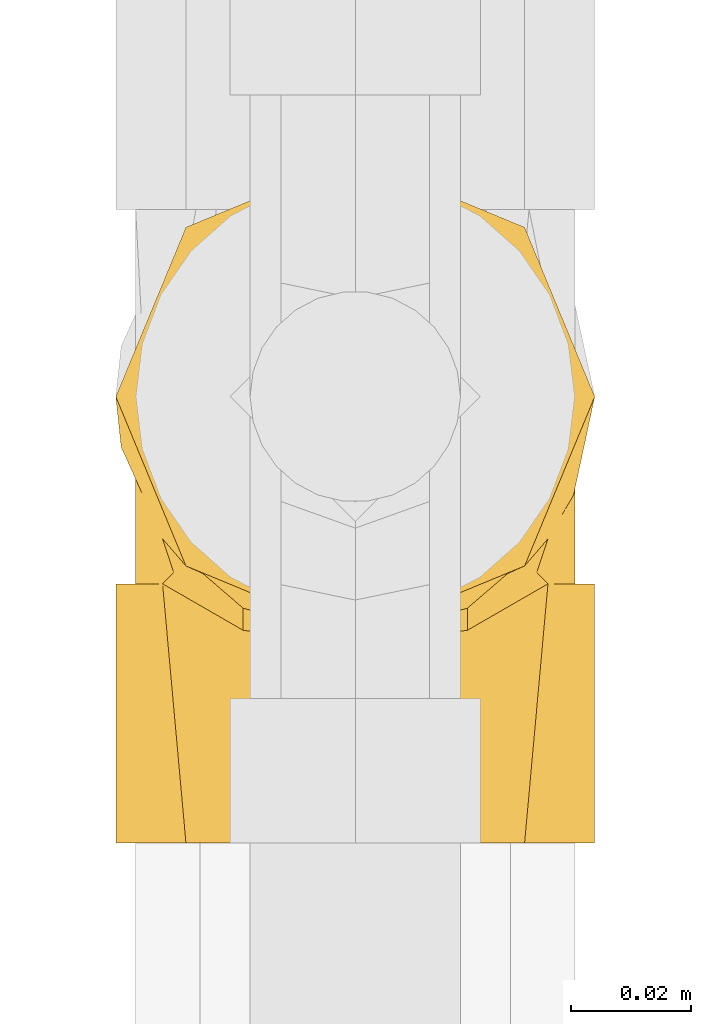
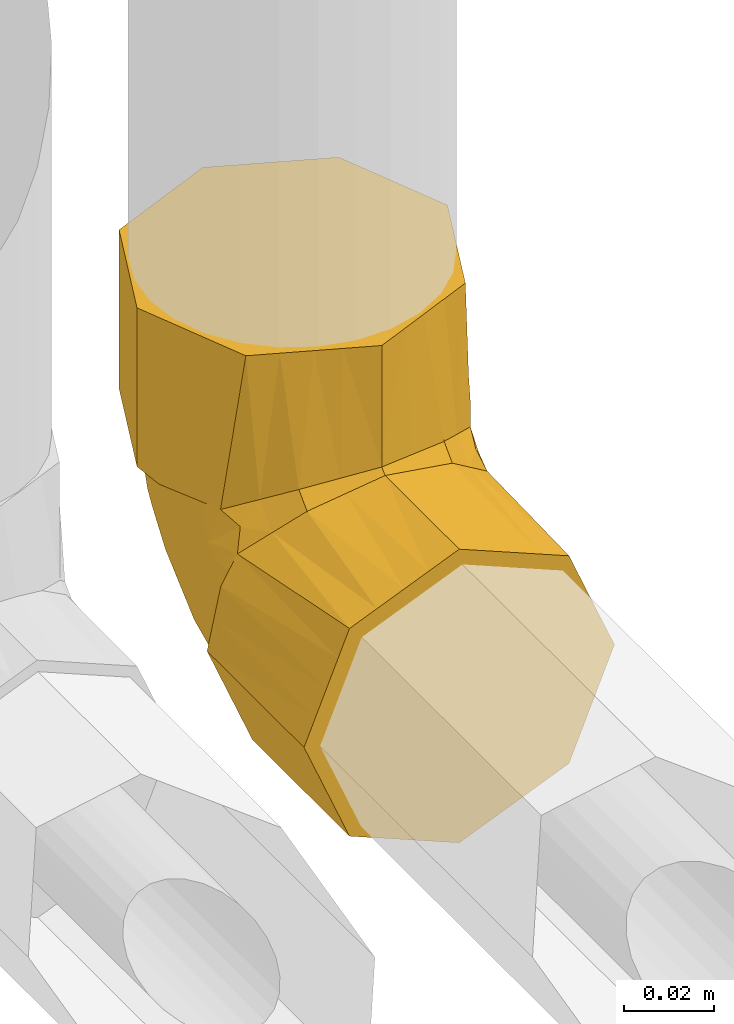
# One storey, part 245 of 652: 1 covering.
"""IFC2X3 building model written with IfcOpenShell, lengths in millimetres."""

from ifc_helpers import new_model, entity, si_unit, converted_unit, direction, frame, origin, place, context, subcontext, project, spatial, faceted_brep, material, type_object, element, save


model = new_model("IFC2X3")

# Units and contexts
model_context = context("Model", 3, precision=0.01, world=frame((0.0, 0.0, 308426.39999999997)), true_north=direction((6.123233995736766e-17, 1.0)))
plan_context = context("Plan", 3, precision=0.01, world=frame((0.0, 0.0, 308426.39999999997)), true_north=direction((6.123233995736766e-17, 1.0)))
body_context = subcontext(model_context, "Body", "Model", "MODEL_VIEW")
ifc_project = project(units=[si_unit("LENGTHUNIT", "METRE", prefix="MILLI"), si_unit("AREAUNIT", "SQUARE_METRE"), si_unit("VOLUMEUNIT", "CUBIC_METRE"), converted_unit("PLANEANGLEUNIT", "DEGREE", entity("IfcPlaneAngleMeasure", 0.017453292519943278), si_unit("PLANEANGLEUNIT", "RADIAN"), dimensions=[0, 0, 0, 0, 0, 0, 0])], contexts=[model_context, plan_context])

# Site, building, storey
site_placement = place(None, origin())
site = spatial("IfcSite", under=ifc_project, at=site_placement, Name="Default", CompositionType="ELEMENT")
building_placement = place(site_placement, origin())
building = spatial("IfcBuilding", under=site, at=building_placement, CompositionType="ELEMENT")
storey_placement = place(building_placement, frame((0.0, 0.0, 1730.6999999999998)))
storey = spatial("IfcBuildingStorey", under=building, at=storey_placement, Name="EG_Produktion_FFB", CompositionType="ELEMENT", Elevation=1730.6999999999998)

# Covering
ifc_material = material(Name="Dämmung - Armaflex-Schlauch")
covering_type = type_object("IfcCoveringType", Name="Rohrdämmung außen:Armaflex-Schlauch", PredefinedType="INSULATION")
covering_placement = place(storey_placement, frame((77838.64672776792, 51563.94410396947, 2358.646727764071)))
element("IfcCovering", 1, at=covering_placement, inside=storey, type_object=covering_type, material=ifc_material, Name="Rohrdämmung außen:Armaflex-Schlauch", ObjectType="Rohrdämmung außen:Armaflex-Schlauch", PredefinedType="INSULATION", context=body_context, shape_type="Brep", body=[
    faceted_brep([(6.083537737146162, 43.00574999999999, 55.29344606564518), (5.617026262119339, 43.00574999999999, 51.30566939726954), (4.890772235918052, 43.00574999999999, 45.09759303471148), (8.3318644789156, 43.00574999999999, 37.46172977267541), (11.772956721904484, 43.00574999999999, 29.8258665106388), (14.99997398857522, 43.00574999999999, 22.66504057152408), (18.22699125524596, 43.00574999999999, 15.504214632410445), (29.790131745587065, 43.00574999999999, 11.253230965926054), (41.35327223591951, 43.00574999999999, 7.002247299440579), (48.56686113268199, 43.00574999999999, 10.651622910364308), (55.78045002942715, 43.00574999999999, 14.300998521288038), (62.99403892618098, 43.00574999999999, 17.950374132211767), (70.2076278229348, 43.00574999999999, 21.599749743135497), (72.58441730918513, 43.00574999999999, 28.940491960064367), (75.20009477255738, 43.00574999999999, 37.01904249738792), (77.81577223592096, 43.00574999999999, 45.09759303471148), (77.08951820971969, 43.00574999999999, 51.305669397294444), (76.62300673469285, 43.00574999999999, 55.29344606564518), (74.98470757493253, 43.00574999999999, 60.125242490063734), (73.34640841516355, 43.00574999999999, 64.9570389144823), (76.7834397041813, 43.00574999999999, 57.339633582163), (80.22047099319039, 43.00574999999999, 49.72222824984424), (81.11127223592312, 43.00574999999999, 41.35327223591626), (77.7993156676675, 43.00574999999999, 33.35750177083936), (75.28884793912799, 43.00574999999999, 27.29669653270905), (72.37763579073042, 43.00574999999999, 20.26840868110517), (69.46642364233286, 43.00574999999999, 13.240120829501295), (62.43813579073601, 43.00574999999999, 10.328908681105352), (55.40984793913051, 43.00574999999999, 7.417696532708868), (48.38156008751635, 43.00574999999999, 4.506484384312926), (41.35327223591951, 43.00574999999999, 1.5952722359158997), (33.357501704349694, 43.00574999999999, 4.907228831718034), (27.296696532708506, 43.00574999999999, 7.417696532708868), (20.268408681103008, 43.00574999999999, 10.328908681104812), (13.240120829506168, 43.00574999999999, 13.240120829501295), (10.3289086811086, 43.00574999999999, 20.26840868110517), (7.417696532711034, 43.00574999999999, 27.296696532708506), (4.907228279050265, 43.00574999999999, 33.35750303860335), (1.5952722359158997, 43.00574999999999, 41.35327223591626), (3.3544632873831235, 43.00574999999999, 49.52928377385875), (5.113654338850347, 43.00574999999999, 57.70529531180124), (9.36013605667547, 43.00574999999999, 64.9570389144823), (7.721836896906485, 43.00574999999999, 60.12524249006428), (69.46642364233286, 0.0, 69.46642364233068), (62.43813579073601, 0.0, 72.37763579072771), (55.40984793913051, 0.0, 75.28884793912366), (49.349042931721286, 0.0, 77.79931557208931), (41.35327223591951, 0.0, 81.11127223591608), (33.357503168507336, 0.0, 77.79931624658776), (27.296696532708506, 0.0, 75.28884793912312), (20.268408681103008, 0.0, 72.37763579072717), (13.240120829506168, 0.0, 69.46642364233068), (10.3289086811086, 0.0, 62.43813579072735), (7.417696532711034, 0.0, 55.40984793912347), (4.506484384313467, 0.0, 48.381560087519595), (1.5952722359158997, 0.0, 41.35327223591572), (4.506484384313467, 0.0, 34.32498438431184), (7.417696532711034, 0.0, 27.296696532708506), (10.3289086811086, 0.0, 20.26840868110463), (13.240120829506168, 0.0, 13.240120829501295), (20.268408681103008, 0.0, 10.328908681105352), (27.296696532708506, 0.0, 7.417696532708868), (34.32498438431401, 0.0, 4.506484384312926), (41.35327223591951, 0.0, 1.5952722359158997), (48.38156008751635, 0.0, 4.506484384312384), (55.40984793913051, 0.0, 7.417696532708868), (62.43813579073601, 0.0, 10.328908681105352), (69.46642364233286, 0.0, 13.240120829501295), (74.4873587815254, 0.0, 25.361730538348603), (77.7993155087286, 0.0, 33.35750138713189), (81.11127223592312, 0.0, 41.35327223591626), (78.20006008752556, 0.0, 48.381560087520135), (75.28884793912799, 0.0, 55.40984793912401), (72.37763579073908, 0.0, 62.43813579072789), (66.6493605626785, 39.14313917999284, 70.72483298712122), (41.35327223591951, 32.887345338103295, 81.11127223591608), (50.65279247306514, 34.0839368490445, 78.80194964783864), (59.952312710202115, 35.28052835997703, 76.49262705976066), (55.3025525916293, 34.68223260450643, 77.64728835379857), (16.057183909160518, 39.14313917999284, 70.72483298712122), (32.053751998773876, 34.0839368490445, 78.80194964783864), (22.754231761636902, 35.28052835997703, 76.49262705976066), (37.04480775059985, 33.441725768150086, 80.04136388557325), (1.5952722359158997, 74.08425000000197, 72.43177223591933), (4.907228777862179, 82.0800204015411, 72.43177223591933), (7.417696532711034, 88.14082570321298, 72.43177223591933), (10.3289086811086, 95.16911355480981, 72.43177223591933), (13.240120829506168, 102.19740140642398, 72.43177223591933), (20.268408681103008, 105.10861355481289, 72.43177223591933), (27.296696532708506, 108.01982570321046, 72.43177223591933), (33.357503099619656, 110.53029398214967, 72.43177223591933), (41.35327223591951, 113.84225000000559, 72.43177223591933), (49.34904239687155, 110.53029355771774, 72.43177223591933), (55.40984793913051, 108.01982570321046, 72.43177223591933), (62.43813579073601, 105.10861355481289, 72.43177223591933), (69.46642364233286, 102.19740140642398, 72.43177223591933), (72.37763579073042, 95.16911355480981, 72.43177223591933), (75.28884793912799, 88.14082570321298, 72.43177223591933), (78.20006008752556, 81.11253785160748, 72.43177223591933), (81.11127223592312, 74.08425000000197, 72.43177223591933), (79.3520811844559, 65.90823846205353, 72.43177223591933), (77.59289013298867, 57.73222692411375, 72.43177223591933), (73.34640841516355, 50.48048332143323, 72.43177223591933), (74.98470757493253, 55.31227974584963, 72.43177223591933), (76.62300673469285, 60.14407617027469, 72.43177223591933), (77.08951812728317, 64.13185213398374, 72.43177223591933), (77.45264518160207, 67.23589066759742, 72.43177223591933), (77.81577223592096, 70.33992920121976, 72.43177223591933), (74.48171748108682, 77.73827380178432, 72.43177223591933), (71.14766272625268, 85.13661840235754, 72.43177223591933), (67.81360797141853, 92.53496300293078, 72.43177223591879), (64.47955321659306, 99.93330760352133, 72.43177223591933), (58.69798297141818, 102.0587994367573, 72.43177223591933), (52.916412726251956, 104.18429126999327, 72.43177223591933), (41.35327223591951, 108.4352749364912, 72.43177223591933), (34.13968333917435, 104.78589932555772, 72.43177223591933), (26.926094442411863, 101.1365237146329, 72.43177223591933), (19.712505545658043, 97.48714810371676, 72.43177223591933), (12.498916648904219, 93.83777249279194, 72.43177223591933), (10.596880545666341, 87.9633116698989, 72.43177223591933), (8.694844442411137, 82.08885084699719, 72.43177223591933), (4.890772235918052, 70.33992920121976, 72.43177223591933), (5.253899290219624, 67.23589066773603, 72.43177223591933), (5.617026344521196, 64.1318521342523, 72.43177223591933), (6.083537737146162, 60.14407617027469, 72.43177223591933), (7.721836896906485, 55.31227974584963, 72.43177223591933), (9.36013605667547, 50.48048332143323, 72.43177223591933), (5.923104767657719, 58.097888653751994, 72.43177223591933), (2.486073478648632, 65.71529398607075, 72.43177223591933), (78.20006008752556, 81.11253785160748, 115.43752223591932), (75.28884793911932, 88.14082570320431, 115.43752223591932), (72.37763579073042, 95.16911355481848, 115.43752223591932), (69.46642364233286, 102.19740140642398, 115.43752223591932), (57.34481362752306, 107.21833667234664, 115.43752223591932), (49.349042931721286, 110.53029333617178, 115.43752223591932), (41.35327223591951, 113.84225000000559, 115.43752223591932), (34.32498438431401, 110.93103785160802, 115.43752223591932), (27.296696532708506, 108.01982570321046, 115.43752223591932), (20.268408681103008, 105.10861355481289, 115.43752223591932), (13.240120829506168, 102.19740140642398, 115.43752223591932), (10.3289086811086, 95.16911355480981, 115.43752223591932), (7.417696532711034, 88.14082570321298, 115.43752223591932), (4.506484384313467, 81.11253785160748, 115.43752223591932), (1.5952722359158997, 74.08425000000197, 115.43752223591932), (4.506484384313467, 67.05596214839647, 115.43752223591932), (7.417696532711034, 60.02767429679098, 115.43752223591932), (10.3289086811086, 52.99938644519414, 115.43752223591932), (13.240120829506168, 45.971098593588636, 115.43752223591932), (20.268408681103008, 43.05988644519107, 115.43752223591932), (27.296696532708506, 40.1486742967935, 115.43752223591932), (33.35750137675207, 37.63820673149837, 115.43752223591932), (41.35327223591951, 34.32625000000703, 115.43752223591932), (49.34904132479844, 37.638205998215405, 115.43752223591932), (55.409847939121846, 40.1486742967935, 115.43752223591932), (62.43813579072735, 43.05988644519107, 115.43752223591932), (69.46642364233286, 45.971098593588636, 115.43752223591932), (72.37763579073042, 52.99938644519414, 115.43752223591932), (75.28884793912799, 60.02767429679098, 115.43752223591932), (77.7993155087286, 66.08847915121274, 115.43752223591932), (81.11127223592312, 74.08425000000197, 115.43752223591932), (41.35327223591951, 34.32624999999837, 82.55017689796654), (50.65279247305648, 36.63557258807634, 81.3535853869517), (59.95231271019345, 38.94489517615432, 80.15699387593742), (49.97020104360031, 36.466066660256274, 81.44141605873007), (66.6493605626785, 44.71268924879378, 76.29438305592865), (16.057183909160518, 44.71268924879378, 76.29438305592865), (32.05375199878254, 36.63557258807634, 81.3535853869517), (22.754231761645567, 38.94489517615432, 80.15699387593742), (32.736343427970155, 36.46606666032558, 81.4414160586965), (37.04480783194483, 35.39615833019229, 81.99579647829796), (70.58570371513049, 87.24563107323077, 57.27953829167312), (70.84194655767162, 59.25537915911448, 29.196562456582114), (74.32849001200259, 64.7856822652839, 39.99677644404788), (77.81577223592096, 54.444618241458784, 51.665813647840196), (77.00211431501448, 57.53683977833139, 44.427643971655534), (76.88844933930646, 69.54060567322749, 55.10574679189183), (68.42603953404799, 78.6127307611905, 40.74800020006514), (65.42597622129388, 63.63300022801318, 24.86974949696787), (41.35327223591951, 91.69909945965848, 37.51558616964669), (49.423246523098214, 97.09379966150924, 46.80229075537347), (49.76955400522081, 80.92903244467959, 27.55975639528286), (41.35327223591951, 55.17908736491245, 14.630582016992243), (50.78343827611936, 61.71355754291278, 14.918451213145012), (62.18567496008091, 81.91063946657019, 36.22638004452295), (77.81577223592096, 68.51539346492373, 70.04816151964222), (77.81577223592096, 66.69085772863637, 67.66455080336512), (77.81577223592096, 63.04178625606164, 62.897329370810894), (77.81577223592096, 58.74320224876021, 57.281571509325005), (65.52092940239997, 92.2422534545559, 54.940238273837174), (59.20806438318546, 71.24210235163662, 24.562664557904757), (60.22410783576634, 57.40923450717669, 17.335133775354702), (58.19488232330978, 92.66510975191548, 45.83903622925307), (55.853767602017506, 84.60868936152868, 33.94124595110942), (41.35327223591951, 100.06718719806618, 54.97367920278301), (41.35327223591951, 100.62176107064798, 56.13067021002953), (41.35327223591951, 67.3524247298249, 22.258916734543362), (41.35327223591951, 73.31662804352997, 25.996342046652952), (41.35327223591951, 79.52576209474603, 29.88725145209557), (55.751720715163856, 100.49812847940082, 57.754577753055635), (73.79715375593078, 78.60346314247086, 53.084365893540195), (41.35327223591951, 58.16118902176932, 16.499294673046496), (77.81577223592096, 48.25776996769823, 48.11331321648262), (77.16648559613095, 48.611422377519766, 55.8898031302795), (75.95462844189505, 47.90470472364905, 61.14799943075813), (41.35327223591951, 33.63371593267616, 81.80380630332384), (76.0357200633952, 51.459156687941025, 63.97836606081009), (71.49570768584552, 44.908883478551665, 70.52863846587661), (75.95462822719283, 54.28952252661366, 67.53281820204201), (77.15152320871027, 59.518701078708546, 66.9208805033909), (5.540058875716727, 48.611422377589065, 55.88980313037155), (4.890772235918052, 48.257769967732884, 48.1133132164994), (11.210837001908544, 44.90888338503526, 70.52863882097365), (6.670824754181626, 51.45915593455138, 63.97836681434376), (6.7519160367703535, 47.90470469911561, 61.14799943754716), (4.890772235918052, 58.743202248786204, 57.281571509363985), (6.7519162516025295, 54.28952251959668, 67.53281822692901), (5.555021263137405, 59.51870107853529, 66.92088050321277), (4.890772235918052, 66.69085772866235, 67.66455080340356), (4.890772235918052, 54.444618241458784, 51.665813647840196), (4.890772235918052, 68.51539346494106, 70.04816151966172), (4.890772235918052, 63.041786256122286, 62.89732937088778), (7.90055709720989, 59.61186262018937, 37.54867793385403), (11.144292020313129, 58.14792793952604, 29.753616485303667), (6.907352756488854, 76.41301603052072, 58.23539538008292), (31.821832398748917, 83.37405497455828, 30.21968406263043), (16.763579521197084, 79.87091005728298, 38.43788537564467), (9.117077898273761, 74.44381850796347, 47.150672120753), (14.598856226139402, 86.90253298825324, 50.85120006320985), (5.892051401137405, 66.09863101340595, 50.71304963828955), (5.886693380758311, 55.98858201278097, 42.398132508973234), (15.338625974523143, 67.81026209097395, 29.782072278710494), (22.521459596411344, 86.6462536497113, 39.60413641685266), (31.617498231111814, 98.35278997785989, 49.78456672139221), (22.69544496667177, 96.79734628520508, 54.986101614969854), (9.61944594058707, 83.33506495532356, 58.13081411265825), (24.56861790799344, 64.80279365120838, 19.784818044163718), (21.067876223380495, 74.76137203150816, 29.107014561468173), (16.734184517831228, 55.99524376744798, 21.418901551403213), (33.08278710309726, 68.64794002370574, 18.405512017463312)], [[[0, 1, 2, 3, 4, 5, 6, 7, 8, 9, 10, 11, 12, 13, 14, 15, 16, 17, 18, 19, 20, 21, 22, 23, 24, 25, 26, 27, 28, 29, 30, 31, 32, 33, 34, 35, 36, 37, 38, 39, 40, 41, 42]], [[43, 44, 45, 46, 47, 48, 49, 50, 51, 52, 53, 54, 55, 56, 57, 58, 59, 60, 61, 62, 63, 64, 65, 66, 67, 68, 69, 70, 71, 72, 73]], [[44, 43, 74]], [[75, 47, 46]], [[76, 75, 46]], [[45, 77, 78, 76]], [[44, 74, 77]], [[72, 20, 73]], [[71, 21, 72]], [[43, 19, 74]], [[77, 45, 44]], [[72, 21, 20]], [[71, 22, 21]], [[45, 76, 46]], [[71, 70, 22]], [[73, 20, 19]], [[19, 43, 73]], [[23, 22, 70, 69, 68, 67, 26, 25, 24]], [[26, 67, 66, 65, 64, 63, 30, 29, 28, 27]], [[38, 37, 36, 35, 34, 59, 58, 57, 56, 55]], [[30, 63, 62, 61, 60, 59, 34, 33, 32, 31]], [[53, 40, 39]], [[50, 79, 51]], [[39, 54, 53]], [[41, 52, 51]], [[40, 52, 41]], [[80, 49, 48]], [[49, 80, 81]], [[55, 54, 38]], [[48, 75, 82, 80]], [[38, 54, 39]], [[79, 50, 81]], [[52, 40, 53]], [[48, 47, 75]], [[50, 49, 81]], [[79, 41, 51]], [[83, 84, 85, 86, 87, 88, 89, 90, 91, 92, 93, 94, 95, 96, 97, 98, 99, 100, 101, 102, 103, 104, 105, 106, 107, 108, 109, 110, 111, 112, 113, 114, 115, 116, 117, 118, 119, 120, 121, 122, 123, 124, 125, 126, 127, 128]], [[129, 130, 131, 132, 133, 134, 135, 136, 137, 138, 139, 140, 141, 142, 143, 144, 145, 146, 147, 148, 149, 150, 151, 152, 153, 154, 155, 156, 157, 158, 159]], [[135, 134, 133, 132, 95, 94, 93, 92, 91]], [[95, 132, 131, 130, 129, 159, 99, 98, 97, 96]], [[159, 158, 157, 100]], [[101, 156, 102]], [[99, 159, 100]], [[101, 100, 157]], [[152, 151, 160]], [[102, 156, 155]], [[153, 161, 162]], [[161, 153, 152]], [[152, 160, 163, 161]], [[154, 164, 155]], [[164, 154, 162]], [[156, 101, 157]], [[154, 153, 162]], [[164, 102, 155]], [[148, 147, 165]], [[149, 166, 150]], [[166, 149, 167]], [[160, 151, 150]], [[148, 165, 167]], [[145, 127, 146]], [[144, 128, 145]], [[147, 126, 165]], [[167, 149, 148]], [[145, 128, 127]], [[144, 83, 128]], [[150, 166, 168, 169, 160]], [[144, 143, 83]], [[146, 127, 126]], [[126, 147, 146]], [[91, 90, 89, 88, 87, 139, 138, 137, 136, 135]], [[141, 140, 139, 87, 86, 85, 84, 83, 143, 142]], [[109, 170, 110]], [[13, 171, 172]], [[14, 13, 172]], [[173, 174, 175]], [[176, 171, 177]], [[15, 14, 174]], [[178, 179, 180]], [[9, 181, 182]], [[172, 175, 174]], [[13, 12, 171]], [[12, 11, 177]], [[176, 177, 183]], [[175, 107, 184, 185, 186, 187, 173]], [[188, 170, 176]], [[176, 172, 171]], [[189, 190, 182]], [[11, 10, 190]], [[177, 11, 190]], [[170, 188, 110]], [[191, 183, 192]], [[179, 178, 193, 194]], [[182, 190, 10]], [[182, 195, 180]], [[177, 190, 189]], [[182, 10, 9]], [[180, 195, 196, 197, 178]], [[177, 189, 183]], [[177, 171, 12]], [[113, 179, 194]], [[189, 182, 180]], [[112, 111, 198, 113]], [[198, 111, 188]], [[194, 114, 113]], [[179, 191, 192]], [[199, 175, 172]], [[199, 108, 175]], [[172, 176, 199]], [[188, 111, 110]], [[199, 170, 109]], [[183, 188, 176]], [[108, 199, 109]], [[188, 191, 198]], [[108, 107, 175]], [[176, 170, 199]], [[192, 189, 180]], [[188, 183, 191]], [[189, 192, 183]], [[179, 192, 180]], [[181, 9, 8]], [[182, 181, 200, 195]], [[191, 179, 198]], [[179, 113, 198]], [[174, 173, 201, 15]], [[172, 174, 14]], [[173, 202, 201]], [[173, 187, 203]], [[18, 203, 19]], [[201, 17, 16, 15]], [[204, 76, 163]], [[74, 164, 162, 77]], [[163, 76, 78, 77, 162, 161]], [[205, 102, 206]], [[206, 164, 74]], [[106, 105, 104, 185, 184, 107]], [[205, 207, 102]], [[186, 185, 208, 187]], [[204, 75, 76]], [[163, 160, 204]], [[205, 206, 19]], [[164, 206, 102]], [[203, 205, 19]], [[19, 206, 74]], [[201, 202, 17]], [[17, 202, 18]], [[203, 202, 173]], [[18, 202, 203]], [[102, 207, 103]], [[103, 208, 104]], [[207, 205, 187]], [[208, 103, 207]], [[208, 185, 104]], [[187, 208, 207]], [[203, 187, 205]], [[204, 160, 169]], [[209, 210, 0]], [[169, 168, 166, 167, 81, 80, 82]], [[41, 211, 212]], [[1, 0, 210, 2]], [[213, 212, 214]], [[204, 169, 82]], [[79, 165, 211]], [[126, 125, 215]], [[212, 211, 126]], [[204, 82, 75]], [[167, 165, 79, 81]], [[216, 124, 217]], [[218, 209, 213]], [[122, 121, 219, 217, 124, 123]], [[41, 79, 211]], [[211, 165, 126]], [[209, 0, 42]], [[125, 124, 216]], [[126, 215, 212]], [[125, 216, 215]], [[220, 214, 216, 217]], [[213, 42, 41]], [[212, 213, 41]], [[210, 209, 218]], [[214, 212, 215]], [[209, 42, 213]], [[215, 216, 214]], [[218, 213, 214]], [[4, 221, 222]], [[223, 121, 120]], [[224, 178, 197, 196]], [[225, 226, 227]], [[228, 226, 221]], [[229, 218, 228]], [[222, 226, 230]], [[231, 232, 224]], [[3, 229, 221]], [[233, 232, 231]], [[234, 223, 120]], [[229, 2, 210, 218]], [[224, 235, 236]], [[4, 3, 221]], [[228, 218, 214, 220, 217, 219, 121]], [[237, 222, 230]], [[6, 235, 7]], [[235, 6, 237]], [[238, 200, 7]], [[228, 223, 226]], [[224, 238, 235]], [[234, 226, 223]], [[227, 117, 233]], [[193, 232, 115]], [[224, 232, 178]], [[115, 114, 194, 193]], [[235, 237, 236]], [[238, 224, 196]], [[226, 222, 221]], [[222, 237, 5]], [[5, 237, 6]], [[5, 4, 222]], [[237, 230, 236]], [[7, 200, 181, 8]], [[7, 235, 238]], [[238, 196, 195, 200]], [[227, 118, 117]], [[193, 178, 232]], [[231, 236, 225]], [[233, 117, 116]], [[232, 233, 116]], [[227, 233, 231]], [[229, 3, 2]], [[228, 221, 229]], [[121, 223, 228]], [[119, 118, 234, 120]], [[234, 118, 227]], [[227, 226, 234]], [[232, 116, 115]], [[225, 236, 230]], [[224, 236, 231]], [[226, 225, 230]], [[231, 225, 227]]]),
])

save(model, "model.ifc")
